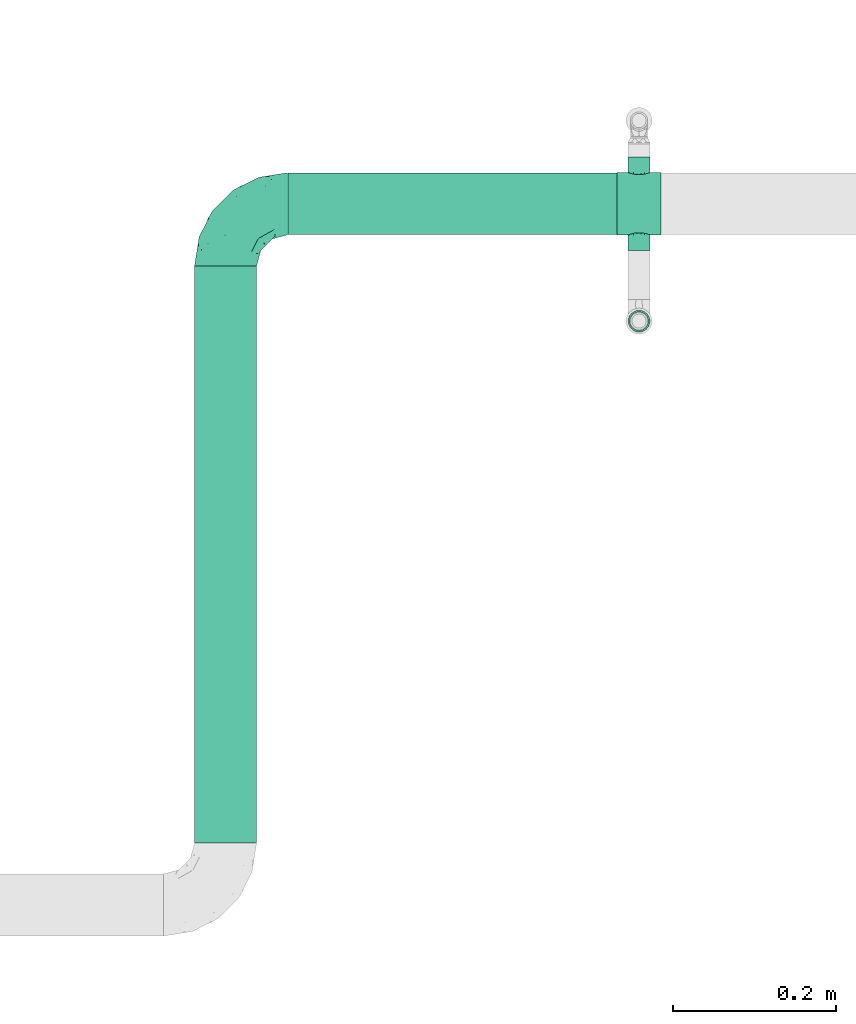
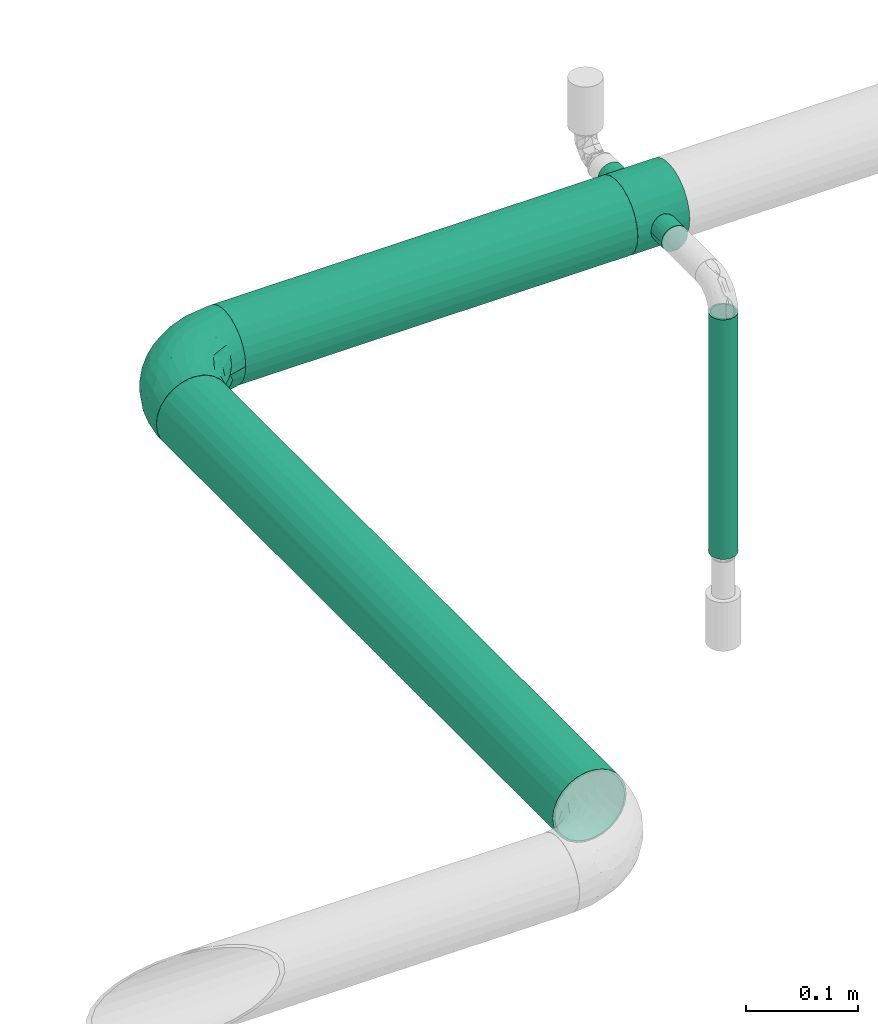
# One storey, part 4 of 51: 3 flow segments, 2 flow fittings.
"""IFC2X3 building model written with IfcOpenShell, lengths in millimetres."""

from ifc_helpers import new_model, entity, si_unit, converted_unit, derived_unit, direction, frame, origin_with_axes, origin_2d_with_axis, place, context, subcontext, project, spatial, hollow_circle, extrude, open_shell, surface_model, source, transform, mapped, type_object, element, save


model = new_model("IFC2X3")

# Units and contexts
model_context = context("Model", 3, precision=0.01, world=frame((0.0, 4.29681676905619e-09, 0.0)), true_north=direction((4.01073788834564e-13, 1.0)))
plan_context = context("Plan", 3, precision=0.01, world=frame((0.0, 4.29681676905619e-09, 0.0)), true_north=direction((4.01073788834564e-13, 1.0)))
body_context = subcontext(model_context, "Body", "Model", "MODEL_VIEW")
ifc_project = project(units=[converted_unit("PLANEANGLEUNIT", "DEGREE", entity("IfcPositiveLengthMeasure", 0.0174532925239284), si_unit("PLANEANGLEUNIT", "RADIAN"), dimensions=[0, 0, 0, 0, 0, 0, 0]), si_unit("AREAUNIT", "SQUARE_METRE"), si_unit("LENGTHUNIT", "METRE", prefix="MILLI"), si_unit("MASSUNIT", "GRAM", prefix="KILO"), si_unit("POWERUNIT", "WATT"), si_unit("PRESSUREUNIT", "PASCAL"), si_unit("FORCEUNIT", "NEWTON", prefix="KILO"), si_unit("ELECTRICVOLTAGEUNIT", "VOLT"), si_unit("ELECTRICCURRENTUNIT", "AMPERE"), si_unit("THERMODYNAMICTEMPERATUREUNIT", "DEGREE_CELSIUS"), si_unit("TIMEUNIT", "SECOND"), si_unit("VOLUMEUNIT", "CUBIC_METRE"), derived_unit("LINEARVELOCITYUNIT", [(si_unit("LENGTHUNIT", "METRE"), 1), (si_unit("TIMEUNIT", "SECOND"), -1)]), derived_unit("VOLUMETRICFLOWRATEUNIT", [(si_unit("VOLUMEUNIT", "CUBIC_METRE"), 1), (si_unit("TIMEUNIT", "SECOND"), -1)]), derived_unit("THERMALTRANSMITTANCEUNIT", [(si_unit("POWERUNIT", "WATT"), 1), (si_unit("THERMODYNAMICTEMPERATUREUNIT", "KELVIN"), -1), (si_unit("AREAUNIT", "SQUARE_METRE"), -1)]), derived_unit("SOUNDPRESSUREUNIT", [(si_unit("PRESSUREUNIT", "PASCAL"), 1)])], contexts=[model_context, plan_context])

# Site, building, storey
site_placement = place(None, frame((0.0, -4.29681676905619e-09, 0.0), z_axis=(0.0, 0.0, 1.0), x_axis=(1.0, 0.0, 0.0)))
site = spatial("IfcSite", under=ifc_project, at=site_placement, Name="ENGM", CompositionType="ELEMENT")
building_placement = place(site_placement, frame((0.0, 4.29681676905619e-09, 0.0), z_axis=(0.0, 0.0, 1.0), x_axis=(1.0, 0.0, 0.0)))
building = spatial("IfcBuilding", under=site, at=building_placement, Name="TH", CompositionType="ELEMENT")
storey_placement = place(building_placement, frame((0.0, 0.0, 210200.0), z_axis=(0.0, 0.0, 1.0), x_axis=(1.0, 0.0, 0.0)))
storey = spatial("IfcBuildingStorey", under=building, at=storey_placement, Name="Nivå F - 0,7 m", CompositionType="ELEMENT", Elevation=210200.0)

# Flow fittings
pipe_fitting_type_1 = type_object("IfcPipeFittingType", Name="magi_pipe_fe_elbow_short_001", PredefinedType="BEND")
shared_shape_1 = source(origin_with_axes(), body_context, "Body", "SurfaceModel", [
    surface_model("IfcShellBasedSurfaceModel", [(-76.2, 19.05, -32.99557), (-76.2, 9.86101, -36.80177), (-76.2, 0.0, -38.1), (-76.2, 26.94077, -26.94077), (-76.2, 36.80177, -9.86101), (-76.2, 32.99557, -19.05), (-76.2, -26.94077, -26.94077), (-76.2, -36.80177, -9.86101), (-76.2, -19.05, -32.99557), (-76.2, -9.86101, -36.80177), (-76.2, -32.99557, -19.05), (-76.2, -38.1, 0.0), (-76.2, -36.80177, 9.86101), (-76.2, 26.94077, 26.94077), (-76.2, 36.80177, 9.86101), (-76.2, 32.99557, 19.05), (-76.2, 9.86101, 36.80177), (-76.2, 19.05, 32.99557), (-76.2, 0.0, 38.1), (-76.2, -32.99557, 19.05), (-76.2, -26.94077, 26.94077), (-76.2, -9.86101, 36.80177), (-76.2, -19.05, 32.99557), (-76.2, 38.1, 0.0), (0.0, 76.2, -38.1), (-9.86101, 76.2, -36.80177), (-19.05, 76.2, -32.99557), (-26.94077, 76.2, -26.94077), (-32.99557, 76.2, -19.05), (-36.80177, 76.2, -9.86101), (26.94077, 76.2, -26.94077), (36.80177, 76.2, -9.86101), (9.86101, 76.2, -36.80177), (19.05, 76.2, -32.99557), (32.99557, 76.2, -19.05), (36.80177, 76.2, 9.86101), (38.1, 76.2, 0.0), (-36.80177, 76.2, 9.86101), (-26.94077, 76.2, 26.94077), (-32.99557, 76.2, 19.05), (-19.05, 76.2, 32.99557), (-9.86101, 76.2, 36.80177), (0.0, 76.2, 38.1), (26.94077, 76.2, 26.94077), (32.99557, 76.2, 19.05), (9.86101, 76.2, 36.80177), (19.05, 76.2, 32.99557), (-38.1, 76.2, 0.0), (-51.47253, -33.41495, 11.97429), (-55.87921, -29.59735, 21.38675), (-40.87936, -32.50576, 0.0), (-57.46182, -35.13216, 0.0), (-9.7569, -13.15819, 14.69187), (-2.65186, -10.17769, 8.01257), (2.20082, -2.20082, 15.78668), (-58.2046, -5.04721, 37.4484), (-53.35237, 5.84022, 38.03506), (13.01533, 9.30417, 14.3119), (23.26567, 31.00373, 18.95093), (8.92292, 13.82363, 24.31711), (-37.93212, -0.34191, 36.92855), (-55.73356, -14.37507, 34.26516), (-29.5907, -8.99996, 31.84562), (-48.87429, -21.76577, 28.30344), (-34.13735, -29.20196, 7.83838), (-24.94775, -24.3882, 0.0), (-13.82363, -8.92292, 24.31711), (-6.80575, 6.80575, 31.14998), (-37.24299, 60.80967, 16.55959), (-31.82754, 59.31737, 25.03043), (-14.22204, 65.71998, 35.68746), (-5.22176, 56.99222, 38.00642), (-58.73143, 14.94265, 35.9909), (-9.94517, 25.51838, 37.4103), (-18.93111, 6.98952, 35.57772), (-3.89226, 20.58438, 35.01344), (-65.91802, 23.07271, 31.04479), (-13.24152, 37.4675, 38.03164), (-28.22122, 28.22122, 37.17425), (-22.68668, 16.64938, 37.90374), (-60.23482, 40.58212, 8.37688), (-60.8286, 37.23683, 16.55705), (-47.30619, 47.30619, 14.2421), (-59.55922, 31.76102, 25.00381), (21.76577, 48.87429, 28.30344), (-39.51357, 50.50487, 21.56421), (14.37507, 55.73356, 34.26516), (29.59735, 55.87921, 21.38675), (33.41495, 51.47253, 11.97429), (-9.01615, -16.27064, 0.0), (-18.50075, -20.95742, 9.87146), (5.04721, 58.2046, 37.4484), (-41.86713, 16.32002, 37.41817), (-37.38612, 9.33613, 38.08374), (24.3882, 24.94775, 0.0), (29.20196, 34.13735, 7.83838), (20.95742, 18.50075, 9.87146), (35.13216, 57.46182, 0.0), (-40.50473, 25.85184, 35.24027), (-31.00373, -23.26567, 18.95093), (-27.62233, 49.24446, 32.02197), (-23.27638, 63.88751, 31.20285), (-40.10509, 61.46399, 8.17366), (-47.75011, 49.97248, 6.70535), (17.55292, 30.69115, 25.82241), (8.99996, 29.5907, 31.84562), (-43.20443, 57.15, 0.0), (-35.27088, 40.23417, 31.3068), (-52.46543, 25.86294, 32.08413), (-0.58232, 0.58231, 22.50977), (-21.74145, 39.43998, 36.62577), (-30.35377, 36.8865, 34.66668), (-16.47755, 51.62643, 36.28492), (-40.16133, 42.54966, 26.98796), (-48.93373, 40.93898, 21.24545), (0.34191, 37.93212, 36.92855), (-30.54899, -16.70018, 26.56572), (10.38979, 2.76708, 7.59679), (32.50576, 40.87936, 0.0), (16.27064, 9.01615, 0.0), (-57.15, 43.20443, 0.0), (3.62725, -3.62725, 0.0), (-56.18403, 32.81229, -25.37784), (-60.79374, 37.24818, -16.56172), (-31.12583, -9.61531, -31.96506), (-33.08389, -0.47526, -36.23756), (-15.30809, -0.63756, -31.219), (-60.31522, 4.8175, -37.976), (-55.58208, -34.10815, -12.42093), (-47.87166, -28.25416, -20.6363), (-36.35476, -28.57081, -12.78243), (-55.4317, 15.55274, -36.12913), (-41.97308, 9.00674, -38.09177), (-32.8123, 56.18403, -25.37784), (-61.68117, 39.97816, -8.33686), (-23.91371, 59.81378, -31.51803), (-15.55274, 55.4317, -36.12913), (-48.48008, 48.48008, -9.09668), (22.76239, 55.12076, -28.76608), (13.14871, 48.24989, -33.88525), (15.02018, 64.34702, -34.67535), (-7.42295, -13.4022, -10.03386), (-7.53093, -9.8797, -17.36177), (4.09889, -3.23385, -10.05311), (-22.23209, 20.60173, -38.07837), (-36.11879, 22.54399, -36.96599), (-59.81378, 23.91371, -31.51803), (-64.14494, -30.32973, -22.13621), (-37.06617, 43.2809, -28.69704), (-35.21221, 35.21221, -33.45314), (-46.56802, 32.18433, -30.26847), (3.32253, -0.70027, -16.3296), (-55.12076, -22.76239, -28.76608), (28.25416, 47.87166, -20.6363), (34.10815, 55.58208, -12.42093), (28.57081, 36.35476, -12.78243), (-64.34702, -15.02018, -34.67535), (4.80394, 56.13349, -37.40338), (-24.08639, -18.54476, -20.78452), (-28.44745, -15.54194, -26.65272), (-13.81153, -9.41447, -23.82138), (-41.58053, -17.39667, -29.91543), (-48.24989, -13.14871, -33.88525), (-56.1335, -4.80394, -37.40338), (-28.5499, 46.87201, -32.27447), (-39.97816, 61.68117, -8.33686), (-4.8175, 60.31522, -37.976), (-13.45022, 13.45022, -35.97664), (0.47526, 33.08389, -36.23756), (1.60394, 17.89715, -31.77365), (-37.24818, 60.79374, -16.56172), (-45.75928, 45.75928, -18.77942), (30.32973, 64.14494, -22.13621), (22.08018, 30.6107, -20.46174), (12.28189, 14.44402, -21.13272), (15.54194, 28.44745, -26.65272), (7.87454, 32.5264, -33.28409), (-9.00674, 41.97308, -38.09177), (-46.32128, 24.51975, -34.33978), (-22.71812, 37.0764, -36.7817), (-0.36118, 0.36118, -22.07635), (-17.64772, -21.30183, -6.55407), (19.53658, 18.92928, -14.18962), (21.30183, 17.64772, -6.55407), (4.4885, 11.61303, -26.72553), (-18.92929, -19.53658, -14.18962)], [open_shell([[[0, 1, 2]], [[3, 0, 2]], [[4, 5, 3]], [[6, 3, 2]], [[4, 3, 7]], [[8, 6, 9]], [[6, 2, 9]], [[10, 7, 6]], [[6, 7, 3]], [[11, 12, 7]], [[12, 4, 7]], [[13, 14, 4]], [[15, 14, 13]], [[16, 17, 13]], [[4, 12, 13]], [[13, 18, 16]], [[19, 20, 12]], [[21, 12, 20]], [[22, 21, 20]], [[21, 13, 12]], [[21, 18, 13]], [[23, 4, 14]], [[24, 25, 26]], [[24, 26, 27]], [[27, 28, 29]], [[24, 27, 30]], [[31, 27, 29]], [[32, 30, 33]], [[32, 24, 30]], [[30, 31, 34]], [[27, 31, 30]], [[31, 35, 36]], [[31, 29, 35]], [[29, 37, 38]], [[38, 37, 39]], [[38, 40, 41]], [[29, 38, 35]], [[42, 38, 41]], [[35, 43, 44]], [[43, 35, 45]], [[43, 45, 46]], [[35, 38, 45]], [[38, 42, 45]], [[37, 29, 47]], [[48, 49, 19]], [[50, 48, 51]], [[52, 53, 54]], [[12, 48, 19]], [[12, 51, 48]], [[18, 55, 56]], [[19, 49, 20]], [[57, 58, 59]], [[60, 61, 62]], [[63, 22, 20]], [[63, 61, 22]], [[64, 50, 65]], [[62, 66, 67]], [[39, 68, 69]], [[41, 70, 71]], [[16, 72, 17]], [[73, 74, 75]], [[17, 76, 13]], [[21, 55, 18]], [[77, 78, 79]], [[80, 81, 82]], [[15, 83, 81]], [[84, 43, 46]], [[23, 14, 80]], [[14, 15, 81]], [[68, 85, 69]], [[83, 15, 13]], [[18, 56, 16]], [[46, 86, 84]], [[13, 76, 83]], [[87, 58, 88]], [[39, 37, 68]], [[89, 90, 65]], [[42, 91, 45]], [[65, 90, 64]], [[42, 41, 71]], [[92, 93, 79]], [[88, 35, 44]], [[44, 43, 87]], [[87, 88, 44]], [[94, 95, 96]], [[88, 97, 35]], [[98, 72, 92]], [[49, 99, 63]], [[69, 100, 101]], [[82, 102, 103]], [[104, 105, 59]], [[106, 102, 47]], [[98, 107, 108]], [[102, 82, 68]], [[86, 46, 45]], [[69, 38, 39]], [[109, 54, 57]], [[110, 100, 111]], [[22, 61, 21]], [[101, 40, 38]], [[70, 41, 40]], [[112, 77, 71]], [[84, 86, 105]], [[96, 95, 58]], [[100, 69, 113]], [[72, 16, 56]], [[108, 113, 83]], [[81, 114, 82]], [[112, 110, 77]], [[91, 71, 115]], [[62, 61, 63]], [[55, 61, 60]], [[116, 99, 66]], [[74, 62, 67]], [[91, 86, 45]], [[105, 86, 115]], [[75, 105, 115]], [[109, 67, 66]], [[59, 105, 67]], [[48, 64, 99]], [[99, 49, 48]], [[63, 20, 49]], [[43, 84, 87]], [[58, 87, 84]], [[92, 72, 56]], [[76, 72, 108]], [[102, 68, 37]], [[82, 114, 85]], [[98, 111, 107]], [[112, 70, 101]], [[114, 83, 113]], [[82, 103, 80]], [[92, 79, 78]], [[115, 71, 77]], [[74, 79, 60]], [[77, 79, 73]], [[71, 91, 42]], [[86, 91, 115]], [[61, 55, 21]], [[56, 55, 60]], [[57, 54, 117]], [[104, 59, 58]], [[116, 66, 62]], [[52, 99, 90]], [[12, 11, 51]], [[97, 88, 118]], [[97, 36, 35]], [[53, 90, 89]], [[90, 53, 52]], [[94, 96, 119]], [[88, 95, 118]], [[117, 54, 53]], [[92, 56, 93]], [[98, 92, 78]], [[111, 98, 78]], [[72, 98, 108]], [[110, 111, 78]], [[107, 111, 100]], [[47, 102, 37]], [[102, 106, 103]], [[106, 120, 103]], [[103, 120, 80]], [[23, 80, 120]], [[14, 81, 80]], [[56, 60, 93]], [[60, 79, 93]], [[117, 121, 119]], [[121, 117, 53]], [[53, 89, 121]], [[119, 96, 117]], [[117, 96, 57]], [[77, 110, 78]], [[100, 110, 112]], [[83, 114, 81]], [[85, 114, 113]], [[69, 85, 113]], [[82, 85, 68]], [[109, 52, 54]], [[99, 52, 66]], [[69, 101, 38]], [[112, 101, 100]], [[100, 113, 107]], [[108, 107, 113]], [[62, 74, 60]], [[75, 74, 67]], [[105, 75, 67]], [[73, 75, 115]], [[77, 73, 115]], [[74, 73, 79]], [[99, 64, 90]], [[50, 64, 48]], [[118, 95, 94]], [[58, 95, 88]], [[58, 57, 96]], [[109, 57, 59]], [[72, 76, 17]], [[83, 76, 108]], [[101, 70, 40]], [[71, 70, 112]], [[58, 84, 104]], [[105, 104, 84]], [[67, 109, 59]], [[52, 109, 66]], [[62, 63, 116]], [[99, 116, 63]], [[122, 5, 123]], [[124, 125, 126]], [[2, 1, 127]], [[128, 129, 130]], [[127, 131, 132]], [[28, 27, 133]], [[120, 134, 23]], [[135, 26, 136]], [[123, 134, 137]], [[138, 139, 140]], [[122, 3, 5]], [[141, 142, 143]], [[144, 132, 145]], [[131, 0, 146]], [[128, 10, 147]], [[148, 149, 150]], [[128, 51, 7]], [[142, 151, 143]], [[152, 6, 8]], [[153, 154, 155]], [[156, 152, 8]], [[32, 157, 24]], [[158, 159, 160]], [[147, 10, 6]], [[129, 152, 161]], [[156, 8, 9]], [[162, 163, 125]], [[154, 34, 31]], [[120, 106, 137]], [[149, 148, 164]], [[47, 29, 165]], [[163, 9, 2]], [[5, 4, 123]], [[25, 166, 136]], [[167, 168, 169]], [[170, 133, 171]], [[25, 24, 166]], [[33, 30, 138]], [[157, 32, 140]], [[29, 28, 170]], [[30, 34, 172]], [[26, 135, 27]], [[132, 131, 145]], [[32, 33, 140]], [[173, 174, 175]], [[169, 168, 176]], [[25, 136, 26]], [[175, 138, 173]], [[168, 177, 157]], [[163, 162, 156]], [[153, 172, 154]], [[10, 128, 7]], [[154, 97, 118]], [[131, 178, 145]], [[0, 3, 146]], [[175, 139, 138]], [[155, 118, 94]], [[131, 1, 0]], [[146, 178, 131]], [[170, 137, 165]], [[149, 179, 145]], [[171, 133, 148]], [[160, 180, 142]], [[65, 181, 89]], [[170, 165, 29]], [[137, 171, 123]], [[172, 138, 30]], [[138, 153, 173]], [[168, 157, 139]], [[166, 157, 177]], [[176, 175, 169]], [[168, 167, 144]], [[154, 31, 97]], [[155, 182, 173]], [[162, 124, 161]], [[147, 152, 129]], [[127, 163, 2]], [[132, 144, 125]], [[132, 125, 163]], [[125, 167, 126]], [[129, 158, 130]], [[31, 36, 97]], [[143, 182, 183]], [[169, 126, 167]], [[3, 122, 146]], [[178, 150, 149]], [[136, 179, 164]], [[133, 27, 135]], [[123, 4, 134]], [[122, 123, 171]], [[133, 170, 28]], [[137, 170, 171]], [[184, 175, 174]], [[180, 160, 126]], [[126, 169, 184]], [[126, 159, 124]], [[51, 128, 50]], [[51, 11, 7]], [[131, 127, 1]], [[163, 127, 132]], [[157, 166, 24]], [[136, 166, 177]], [[164, 179, 149]], [[144, 167, 125]], [[179, 144, 145]], [[168, 144, 177]], [[136, 177, 179]], [[144, 179, 177]], [[141, 121, 89]], [[89, 181, 141]], [[154, 118, 155]], [[183, 155, 94]], [[143, 183, 119]], [[119, 183, 94]], [[155, 183, 182]], [[181, 130, 185]], [[50, 128, 130]], [[130, 181, 65]], [[50, 130, 65]], [[141, 181, 185]], [[142, 141, 185]], [[143, 121, 141]], [[158, 160, 142]], [[142, 180, 151]], [[158, 142, 185]], [[126, 160, 159]], [[130, 158, 185]], [[129, 159, 158]], [[23, 134, 4]], [[120, 137, 134]], [[137, 106, 165]], [[47, 165, 106]], [[174, 151, 180]], [[182, 143, 151]], [[150, 146, 122]], [[149, 145, 178]], [[146, 150, 178]], [[122, 171, 148]], [[148, 150, 122]], [[164, 133, 135]], [[133, 164, 148]], [[164, 135, 136]], [[138, 140, 33]], [[157, 140, 139]], [[154, 172, 34]], [[138, 172, 153]], [[163, 156, 9]], [[152, 156, 162]], [[152, 147, 6]], [[128, 147, 129]], [[155, 173, 153]], [[174, 173, 182]], [[151, 174, 182]], [[174, 180, 184]], [[126, 184, 180]], [[175, 184, 169]], [[168, 139, 176]], [[175, 176, 139]], [[161, 124, 159]], [[125, 124, 162]], [[129, 161, 159]], [[162, 161, 152]], [[143, 119, 121]]])]),
])
flow_fitting_1_placement = place(storey_placement, frame((899592.9663, 484329.45519, 2933.0), z_axis=(0.0, 0.0, 1.0), x_axis=(-1.0, 0.0, 0.0)))
element("IfcFlowFitting", 1, at=flow_fitting_1_placement, inside=storey, type_object=pipe_fitting_type_1, Name="magi_pipe_fe_elbow_short_001", context=body_context, shape_type="MappedRepresentation", body=[
    mapped(shared_shape_1, transform((0.0, 0.0, 0.0), scale=1.0)),
])
pipe_fitting_type_2 = type_object("IfcPipeFittingType", Name="magi_pipe_fe_cross_centric_90_001", PredefinedType="JUNCTION")
shared_shape_2 = source(origin_with_axes(), body_context, "Body", "SurfaceModel", [
    surface_model("IfcShellBasedSurfaceModel", [(-26.8, 19.05, -32.99557), (-26.8, 9.86101, -36.80177), (-26.8, 0.0, -38.1), (-26.8, 26.94077, -26.94077), (-26.8, 36.80177, -9.86101), (-26.8, 32.99557, -19.05), (-26.8, -36.80177, 9.86101), (-26.8, -38.1, 0.0), (-26.8, -19.05, -32.99557), (-26.8, -26.94077, -26.94077), (-26.8, -9.86101, -36.80177), (-26.8, -36.80177, -9.86101), (-26.8, -32.99557, -19.05), (-26.8, 38.1, 0.0), (-26.8, 32.99557, 19.05), (-26.8, 36.80177, 9.86101), (-26.8, 19.05, 32.99557), (-26.8, 26.94077, 26.94077), (-26.8, 0.0, 38.1), (-26.8, 9.86101, 36.80177), (-26.8, -26.94077, 26.94077), (-26.8, -32.99557, 19.05), (-26.8, -9.86101, 36.80177), (-26.8, -19.05, 32.99557), (26.8, 0.0, -38.1), (26.8, 9.86101, -36.80177), (26.8, 19.05, -32.99557), (26.8, 26.94077, -26.94077), (26.8, 32.99557, -19.05), (26.8, 36.80177, -9.86101), (26.8, -26.94077, -26.94077), (26.8, -38.1, 0.0), (26.8, -9.86101, -36.80177), (26.8, -19.05, -32.99557), (26.8, -32.99557, -19.05), (26.8, -36.80177, -9.86101), (26.8, 36.80177, 9.86101), (26.8, 32.99557, 19.05), (26.8, 19.05, 32.99557), (26.8, 0.0, 38.1), (26.8, 26.94077, 26.94077), (26.8, 9.86101, 36.80177), (26.8, -32.99557, 19.05), (26.8, -26.94077, 26.94077), (26.8, -36.80177, 9.86101), (26.8, -19.05, 32.99557), (26.8, -9.86101, 36.80177), (26.8, 38.1, 0.0), (10.25617, -37.11117, 8.62386), (26.8, -37.45089, 4.9305), (12.58238, -37.82018, 4.60909), (13.4, -38.1, 0.0), (6.72002, -36.29337, 11.59316), (2.34178, -35.74261, 13.19379), (-12.58238, 37.82018, 4.60909), (-26.8, 37.45089, 4.9305), (-10.25983, -37.11218, 8.6195), (-6.72112, -36.29357, 11.59252), (-26.8, -37.45089, 4.9305), (-13.4, -38.1, 0.0), (-12.58273, -37.8203, 4.60814), (-2.34536, -35.74284, 13.19315), (12.58273, 37.8203, 4.60814), (26.8, 37.45089, 4.9305), (13.4, 38.1, 0.0), (10.25983, 37.11218, 8.6195), (6.72112, 36.29357, 11.59252), (2.34536, 35.74284, 13.19315), (-2.34178, 35.74261, 13.19379), (-6.72002, 36.29337, 11.59316), (-10.25617, 37.11117, 8.62386), (-13.4, 38.1, 0.0), (10.25983, 37.11218, -8.6195), (26.8, 37.45089, -4.9305), (12.58273, 37.8203, -4.60814), (6.72112, 36.29357, -11.59252), (-10.25617, 37.11117, -8.62386), (-26.8, 37.45089, -4.9305), (-12.58238, 37.82018, -4.60909), (2.34536, 35.74284, -13.19315), (-2.34178, 35.74261, -13.19379), (-6.72002, 36.29337, -11.59316), (-12.58273, -37.8203, -4.60814), (-26.8, -37.45089, -4.9305), (10.25617, -37.11117, -8.62386), (26.8, -37.45089, -4.9305), (12.58238, -37.82018, -4.60909), (6.72002, -36.29337, -11.59316), (2.34178, -35.74261, -13.19379), (-2.34536, -35.74284, -13.19315), (-6.72112, -36.29357, -11.59252), (-10.25983, -37.11218, -8.6195), (9.47523, -57.15, -9.47523), (0.0, -57.15, -13.4), (3.46818, -57.15, -12.94341), (6.7, -57.15, -11.60474), (11.60474, -57.15, -6.7), (12.94341, -57.15, -3.46818), (-12.94341, -57.15, 3.46818), (-12.94341, -57.15, -3.46818), (-3.46818, -57.15, -12.94341), (-9.47523, -57.15, -9.47523), (-6.7, -57.15, -11.60474), (-11.60474, -57.15, -6.7), (-13.4, -57.15, 0.0), (13.4, -57.15, 0.0), (12.94341, -57.15, 3.46818), (11.60474, -57.15, 6.7), (6.7, -57.15, 11.60474), (9.47523, -57.15, 9.47523), (3.46818, -57.15, 12.94341), (-9.47523, -57.15, 9.47523), (-11.60474, -57.15, 6.7), (-6.7, -57.15, 11.60474), (-3.46818, -57.15, 12.94341), (0.0, -57.15, 13.4), (-12.99136, -37.96015, 2.30407), (-4.53324, -36.01821, 12.39284), (-0.00179, -35.74272, 13.19347), (4.5309, -36.01799, 12.39347), (12.99119, -37.96009, 2.30455), (12.99119, -37.96009, -2.30455), (-12.99136, -37.96015, -2.30407), (4.5309, -36.01799, -12.39347), (-0.00179, -35.74272, -13.19347), (-4.53324, -36.01821, -12.39284), (0.0, 57.15, -13.4), (-3.46818, 57.15, -12.94341), (-6.7, 57.15, -11.60474), (-9.47523, 57.15, -9.47523), (-11.60474, 57.15, -6.7), (-12.94341, 57.15, -3.46818), (11.60474, 57.15, -6.7), (12.94341, 57.15, 3.46818), (12.94341, 57.15, -3.46818), (3.46818, 57.15, -12.94341), (9.47523, 57.15, -9.47523), (6.7, 57.15, -11.60474), (13.4, 57.15, 0.0), (-13.4, 57.15, 0.0), (-12.94341, 57.15, 3.46818), (-11.60474, 57.15, 6.7), (-6.7, 57.15, 11.60474), (-9.47523, 57.15, 9.47523), (0.0, 57.15, 13.4), (-3.46818, 57.15, 12.94341), (11.60474, 57.15, 6.7), (6.7, 57.15, 11.60474), (9.47523, 57.15, 9.47523), (3.46818, 57.15, 12.94341), (12.99136, 37.96015, 2.30407), (4.53324, 36.01821, 12.39284), (0.00179, 35.74272, 13.19347), (-4.5309, 36.01799, 12.39347), (-12.99119, 37.96009, 2.30455), (-12.99119, 37.96009, -2.30455), (12.99136, 37.96015, -2.30407), (-4.5309, 36.01799, -12.39347), (0.00179, 35.74272, -13.19347), (4.53324, 36.01821, -12.39284)], [open_shell([[[0, 1, 2]], [[3, 0, 2]], [[4, 5, 3]], [[6, 2, 7]], [[2, 6, 3]], [[8, 9, 10]], [[7, 10, 9]], [[11, 7, 12]], [[9, 12, 7]], [[7, 2, 10]], [[13, 4, 3]], [[14, 15, 13]], [[14, 13, 6]], [[6, 16, 14]], [[17, 14, 16]], [[16, 18, 19]], [[20, 18, 21]], [[6, 21, 18]], [[22, 18, 23]], [[20, 23, 18]], [[18, 16, 6]], [[3, 6, 13]], [[24, 25, 26]], [[24, 26, 27]], [[27, 28, 29]], [[24, 27, 30]], [[31, 27, 29]], [[32, 30, 33]], [[32, 24, 30]], [[34, 31, 35]], [[31, 34, 30]], [[27, 31, 30]], [[29, 36, 31]], [[36, 37, 31]], [[31, 37, 38]], [[38, 39, 31]], [[38, 37, 40]], [[39, 38, 41]], [[42, 39, 43]], [[44, 31, 42]], [[45, 39, 46]], [[39, 45, 43]], [[39, 42, 31]], [[36, 29, 47]], [[44, 48, 49]], [[50, 51, 31]], [[50, 49, 48]], [[44, 52, 48]], [[43, 20, 42]], [[45, 23, 43]], [[52, 42, 53]], [[42, 52, 44]], [[21, 53, 42]], [[45, 46, 22]], [[54, 13, 55]], [[56, 57, 6]], [[56, 6, 58]], [[59, 60, 7]], [[7, 60, 58]], [[57, 21, 6]], [[53, 21, 61]], [[42, 20, 21]], [[61, 21, 57]], [[23, 20, 43]], [[45, 22, 23]], [[46, 18, 22]], [[50, 31, 49]], [[46, 39, 18]], [[40, 17, 38]], [[41, 19, 39]], [[41, 38, 16]], [[14, 40, 37]], [[62, 63, 47]], [[62, 47, 64]], [[65, 66, 36]], [[65, 36, 63]], [[36, 66, 37]], [[67, 37, 66]], [[19, 41, 16]], [[68, 37, 67]], [[56, 58, 60]], [[37, 68, 14]], [[17, 16, 38]], [[40, 14, 17]], [[68, 69, 14]], [[65, 63, 62]], [[54, 55, 70]], [[69, 70, 15]], [[55, 15, 70]], [[13, 54, 71]], [[69, 15, 14]], [[39, 19, 18]], [[29, 72, 73]], [[74, 64, 47]], [[74, 73, 72]], [[29, 75, 72]], [[76, 77, 78]], [[79, 28, 80]], [[28, 79, 75]], [[27, 5, 28]], [[26, 3, 27]], [[26, 25, 0]], [[28, 75, 29]], [[76, 81, 4]], [[76, 4, 77]], [[71, 78, 13]], [[13, 78, 77]], [[81, 5, 4]], [[0, 3, 26]], [[25, 1, 0]], [[82, 7, 83]], [[3, 5, 27]], [[5, 80, 28]], [[84, 85, 86]], [[25, 2, 1]], [[80, 5, 81]], [[74, 47, 73]], [[25, 24, 2]], [[30, 9, 33]], [[32, 10, 24]], [[32, 33, 8]], [[12, 30, 34]], [[86, 85, 31]], [[86, 31, 51]], [[84, 87, 35]], [[84, 35, 85]], [[35, 87, 34]], [[88, 34, 87]], [[10, 32, 8]], [[88, 12, 34]], [[12, 88, 89]], [[9, 8, 33]], [[30, 12, 9]], [[89, 90, 12]], [[82, 83, 91]], [[90, 91, 11]], [[83, 11, 91]], [[7, 82, 59]], [[90, 11, 12]], [[24, 10, 2]], [[92, 93, 94]], [[92, 94, 95]], [[92, 96, 97]], [[93, 92, 98]], [[98, 99, 93]], [[100, 101, 102]], [[100, 93, 101]], [[103, 101, 93]], [[93, 99, 103]], [[99, 98, 104]], [[98, 92, 97]], [[105, 106, 107]], [[107, 108, 97]], [[108, 98, 97]], [[108, 107, 109]], [[98, 108, 110]], [[98, 111, 112]], [[111, 98, 113]], [[98, 114, 113]], [[114, 98, 115]], [[98, 110, 115]], [[97, 105, 107]], [[98, 116, 104]], [[56, 112, 111]], [[98, 112, 60]], [[111, 113, 57]], [[116, 59, 104]], [[60, 112, 56]], [[114, 61, 117]], [[57, 56, 111]], [[115, 53, 118]], [[108, 119, 110]], [[120, 105, 51]], [[117, 113, 114]], [[117, 57, 113]], [[52, 108, 109]], [[98, 60, 116]], [[50, 107, 106]], [[120, 50, 106]], [[107, 48, 109]], [[115, 61, 114]], [[110, 119, 53]], [[53, 115, 110]], [[52, 119, 108]], [[52, 109, 48]], [[48, 107, 50]], [[105, 120, 106]], [[118, 61, 115]], [[97, 121, 105]], [[84, 96, 92]], [[122, 104, 59]], [[96, 86, 97]], [[95, 87, 92]], [[121, 51, 105]], [[86, 96, 84]], [[94, 88, 123]], [[87, 84, 92]], [[93, 89, 124]], [[102, 125, 100]], [[123, 87, 95]], [[123, 95, 94]], [[97, 86, 121]], [[90, 102, 101]], [[102, 90, 125]], [[82, 103, 99]], [[103, 91, 101]], [[93, 88, 94]], [[89, 93, 100]], [[125, 89, 100]], [[124, 88, 93]], [[90, 101, 91]], [[91, 103, 82]], [[104, 122, 99]], [[122, 82, 99]], [[126, 127, 128]], [[126, 128, 129]], [[129, 130, 131]], [[126, 129, 132]], [[129, 133, 134]], [[135, 136, 137]], [[136, 135, 132]], [[126, 132, 135]], [[129, 134, 132]], [[134, 133, 138]], [[129, 131, 133]], [[139, 140, 141]], [[139, 141, 142]], [[139, 142, 133]], [[142, 141, 143]], [[144, 142, 145]], [[146, 147, 148]], [[144, 146, 133]], [[146, 149, 147]], [[149, 146, 144]], [[133, 142, 144]], [[139, 133, 131]], [[133, 150, 138]], [[65, 146, 148]], [[133, 146, 62]], [[148, 147, 66]], [[150, 64, 138]], [[62, 146, 65]], [[149, 67, 151]], [[66, 65, 148]], [[144, 68, 152]], [[142, 153, 145]], [[154, 139, 71]], [[151, 147, 149]], [[151, 66, 147]], [[69, 142, 143]], [[133, 62, 150]], [[54, 141, 140]], [[154, 54, 140]], [[141, 70, 143]], [[144, 67, 149]], [[145, 153, 68]], [[68, 144, 145]], [[69, 153, 142]], [[69, 143, 70]], [[70, 141, 54]], [[139, 154, 140]], [[152, 67, 144]], [[131, 155, 139]], [[76, 130, 129]], [[156, 138, 64]], [[130, 78, 131]], [[128, 81, 129]], [[155, 71, 139]], [[78, 130, 76]], [[127, 80, 157]], [[81, 76, 129]], [[126, 79, 158]], [[137, 159, 135]], [[157, 81, 128]], [[157, 128, 127]], [[131, 78, 155]], [[75, 137, 136]], [[137, 75, 159]], [[74, 132, 134]], [[132, 72, 136]], [[126, 80, 127]], [[79, 126, 135]], [[159, 79, 135]], [[158, 80, 126]], [[75, 136, 72]], [[72, 132, 74]], [[138, 156, 134]], [[156, 74, 134]]])]),
])
flow_fitting_2_placement = place(storey_placement, frame((900100.0, 484329.45519, 2933.0), z_axis=(0.0, 0.0, 1.0), x_axis=(-1.0, 0.0, 0.0)))
element("IfcFlowFitting", 2, at=flow_fitting_2_placement, inside=storey, type_object=pipe_fitting_type_2, Name="magi_pipe_fe_cross_centric_90_001", context=body_context, shape_type="MappedRepresentation", body=[
    mapped(shared_shape_2, transform((0.0, 0.0, 0.0), scale=1.0)),
])

# Flow segments
pipe_segment_type = type_object("IfcPipeSegmentType", Name="Stålrør normaltykke", PredefinedType="RIGIDSEGMENT")
shared_shape_3 = source(origin_with_axes(), body_context, "Body", "SweptSolid", [
    extrude(hollow_circle(Radius=13.3, WallThickness=2.0, at=origin_2d_with_axis()), frame((0.0, 0.0, 0.0), z_axis=(1.0, 0.0, 0.0), x_axis=(0.0, 1.0, 0.0)), (0.0, 0.0, 1.0), 260.9),
])
flow_segment_1_placement = place(storey_placement, frame((900100.0, 484185.40642, 2645.32693000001), z_axis=(1.0, 0.0, 0.0), x_axis=(0.0, 0.0, 1.0)))
element("IfcFlowSegment", 3, at=flow_segment_1_placement, inside=storey, type_object=pipe_segment_type, Name="Stålrør normaltykke", context=body_context, shape_type="MappedRepresentation", body=[
    mapped(shared_shape_3, transform((0.0, 0.0, 0.0), scale=1.0)),
])
shared_shape_4 = source(origin_with_axes(), body_context, "Body", "SweptSolid", [
    extrude(hollow_circle(Radius=38.0, WallThickness=2.0, at=origin_2d_with_axis()), frame((0.0, 0.0, 0.0), z_axis=(1.0, 0.0, 0.0), x_axis=(0.0, 1.0, 0.0)), (0.0, 0.0, 1.0), 707.6),
])
flow_segment_2_placement = place(storey_placement, frame((899592.9663, 483545.65519, 2933.0), z_axis=(0.0, 0.0, 1.0), x_axis=(0.0, 1.0, 0.0)))
element("IfcFlowSegment", 4, at=flow_segment_2_placement, inside=storey, type_object=pipe_segment_type, Name="Stålrør normaltykke", context=body_context, shape_type="MappedRepresentation", body=[
    mapped(shared_shape_4, transform((0.0, 0.0, 0.0), scale=1.0)),
])
shared_shape_5 = source(origin_with_axes(), body_context, "Body", "SweptSolid", [
    extrude(hollow_circle(Radius=38.0, WallThickness=2.0, at=origin_2d_with_axis()), frame((0.0, 0.0, 0.0), z_axis=(1.0, 0.0, 0.0), x_axis=(0.0, 1.0, 0.0)), (0.0, 0.0, 1.0), 404.0),
])
flow_segment_3_placement = place(storey_placement, frame((900073.2, 484329.45519, 2933.0), z_axis=(0.0, 0.0, 1.0), x_axis=(-1.0, 0.0, 0.0)))
element("IfcFlowSegment", 5, at=flow_segment_3_placement, inside=storey, type_object=pipe_segment_type, Name="Stålrør normaltykke", context=body_context, shape_type="MappedRepresentation", body=[
    mapped(shared_shape_5, transform((0.0, 0.0, 0.0), scale=1.0)),
])

save(model, "model.ifc")
